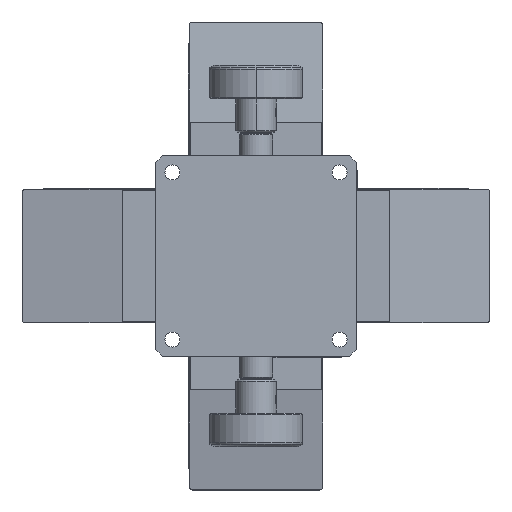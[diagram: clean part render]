
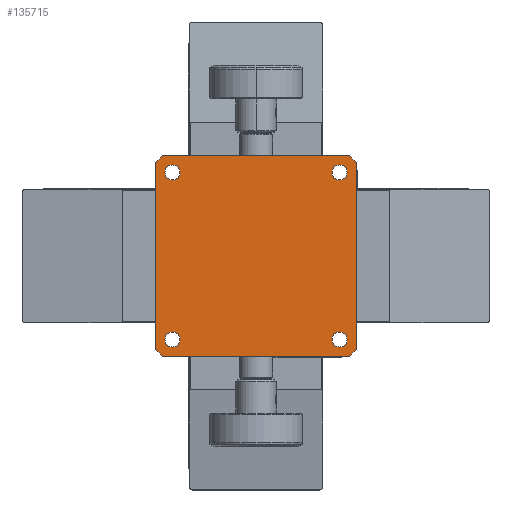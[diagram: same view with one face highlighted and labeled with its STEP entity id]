
A CAD part, front view. The second image highlights one B-rep face of the part: STEP entity #135715.
In plain terms, the highlighted planar face has unit normal (0, -1, 0).
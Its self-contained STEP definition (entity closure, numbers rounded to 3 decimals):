
#445 = ORIENTED_EDGE ( 'NONE', *, *, #141251, .F. ) ;
#706 = VECTOR ( 'NONE', #143927, 1000. ) ;
#797 = ORIENTED_EDGE ( 'NONE', *, *, #77149, .T. ) ;
#1164 = VERTEX_POINT ( 'NONE', #94167 ) ;
#1627 = DIRECTION ( 'NONE',  ( -0.707, 0., -0.707 ) ) ;
#3079 = EDGE_LOOP ( 'NONE', ( #77573, #151202 ) ) ;
#5270 = LINE ( 'NONE', #186721, #706 ) ;
#6106 = CARTESIAN_POINT ( 'NONE',  ( 28., 0., -30. ) ) ;
#7840 = VERTEX_POINT ( 'NONE', #92249 ) ;
#12298 = VERTEX_POINT ( 'NONE', #91786 ) ;
#13200 = CARTESIAN_POINT ( 'NONE',  ( -30., 0., -28. ) ) ;
#13535 = EDGE_CURVE ( 'NONE', #123453, #177479, #128598, .T. ) ;
#15899 = DIRECTION ( 'NONE',  ( 0., 1., 0. ) ) ;
#16109 = DIRECTION ( 'NONE',  ( 0., 1., 0. ) ) ;
#18883 = CARTESIAN_POINT ( 'NONE',  ( -30., 0., 30. ) ) ;
#19409 = DIRECTION ( 'NONE',  ( 0., 1., 0. ) ) ;
#21212 = DIRECTION ( 'NONE',  ( 1., 0., 0. ) ) ;
#21573 = CIRCLE ( 'NONE', #99109, 2.25 ) ;
#22071 = DIRECTION ( 'NONE',  ( 0., 1., 0. ) ) ;
#22887 = FACE_BOUND ( 'NONE', #179292, .T. ) ;
#23324 = DIRECTION ( 'NONE',  ( 0., 1., 0. ) ) ;
#23352 = CARTESIAN_POINT ( 'NONE',  ( -25., 0., -25. ) ) ;
#24170 = EDGE_CURVE ( 'NONE', #31021, #154450, #127732, .T. ) ;
#24943 = AXIS2_PLACEMENT_3D ( 'NONE', #80168, #180946, #94637 ) ;
#27414 = ORIENTED_EDGE ( 'NONE', *, *, #34184, .T. ) ;
#28366 = VECTOR ( 'NONE', #134514, 1000. ) ;
#29742 = CARTESIAN_POINT ( 'NONE',  ( 22.75, 0., 25. ) ) ;
#31021 = VERTEX_POINT ( 'NONE', #162185 ) ;
#33294 = ORIENTED_EDGE ( 'NONE', *, *, #166321, .T. ) ;
#33390 = DIRECTION ( 'NONE',  ( -1., 0., 0. ) ) ;
#34184 = EDGE_CURVE ( 'NONE', #53910, #117057, #178032, .T. ) ;
#39776 = CARTESIAN_POINT ( 'NONE',  ( 28., 0., 30. ) ) ;
#42071 = CARTESIAN_POINT ( 'NONE',  ( 25., 0., 25. ) ) ;
#43832 = LINE ( 'NONE', #180864, #154428 ) ;
#44205 = ORIENTED_EDGE ( 'NONE', *, *, #24170, .T. ) ;
#45711 = CIRCLE ( 'NONE', #72855, 2.25 ) ;
#47433 = CIRCLE ( 'NONE', #52788, 2.25 ) ;
#47983 = AXIS2_PLACEMENT_3D ( 'NONE', #42071, #143026, #56610 ) ;
#48119 = VECTOR ( 'NONE', #93617, 1000. ) ;
#49925 = DIRECTION ( 'NONE',  ( 0., 0., 1. ) ) ;
#51201 = ORIENTED_EDGE ( 'NONE', *, *, #13535, .T. ) ;
#51991 = LINE ( 'NONE', #165307, #124229 ) ;
#52788 = AXIS2_PLACEMENT_3D ( 'NONE', #55293, #156190, #69834 ) ;
#53910 = VERTEX_POINT ( 'NONE', #6106 ) ;
#55293 = CARTESIAN_POINT ( 'NONE',  ( -25., 0., -25. ) ) ;
#56140 = ORIENTED_EDGE ( 'NONE', *, *, #134080, .T. ) ;
#56610 = DIRECTION ( 'NONE',  ( 1., 0., 0. ) ) ;
#58493 = VECTOR ( 'NONE', #133809, 1000. ) ;
#62918 = AXIS2_PLACEMENT_3D ( 'NONE', #108553, #22071, #123055 ) ;
#64780 = CARTESIAN_POINT ( 'NONE',  ( 30., 0., -30. ) ) ;
#65315 = VERTEX_POINT ( 'NONE', #141575 ) ;
#66587 = CIRCLE ( 'NONE', #47983, 2.25 ) ;
#69156 = EDGE_CURVE ( 'NONE', #159352, #103575, #43832, .T. ) ;
#69834 = DIRECTION ( 'NONE',  ( 1., 0., 0. ) ) ;
#72628 = VECTOR ( 'NONE', #122176, 1000. ) ;
#72855 = AXIS2_PLACEMENT_3D ( 'NONE', #102343, #15899, #116884 ) ;
#76291 = EDGE_CURVE ( 'NONE', #161331, #7840, #21573, .T. ) ;
#76363 = PLANE ( 'NONE',  #169653 ) ;
#77149 = EDGE_CURVE ( 'NONE', #145559, #12298, #134199, .T. ) ;
#77573 = ORIENTED_EDGE ( 'NONE', *, *, #76291, .T. ) ;
#79163 = CARTESIAN_POINT ( 'NONE',  ( 30., 0., 30. ) ) ;
#80168 = CARTESIAN_POINT ( 'NONE',  ( -25., 0., 25. ) ) ;
#86638 = EDGE_LOOP ( 'NONE', ( #33294, #115497 ) ) ;
#89050 = CARTESIAN_POINT ( 'NONE',  ( 29., 0., -29. ) ) ;
#89374 = VECTOR ( 'NONE', #1627, 1000. ) ;
#91786 = CARTESIAN_POINT ( 'NONE',  ( 27.25, 0., 25. ) ) ;
#92249 = CARTESIAN_POINT ( 'NONE',  ( 22.75, 0., -25. ) ) ;
#92363 = CARTESIAN_POINT ( 'NONE',  ( -22.75, 0., -25. ) ) ;
#93617 = DIRECTION ( 'NONE',  ( 1., 0., 0. ) ) ;
#94167 = CARTESIAN_POINT ( 'NONE',  ( -22.75, 0., 25. ) ) ;
#94637 = DIRECTION ( 'NONE',  ( 1., 0., 0. ) ) ;
#97194 = ORIENTED_EDGE ( 'NONE', *, *, #125822, .T. ) ;
#99109 = AXIS2_PLACEMENT_3D ( 'NONE', #102547, #16109, #117097 ) ;
#99650 = FACE_BOUND ( 'NONE', #86638, .T. ) ;
#101133 = EDGE_CURVE ( 'NONE', #12298, #145559, #66587, .T. ) ;
#102343 = CARTESIAN_POINT ( 'NONE',  ( -25., 0., 25. ) ) ;
#102547 = CARTESIAN_POINT ( 'NONE',  ( 25., 0., -25. ) ) ;
#103575 = VERTEX_POINT ( 'NONE', #39776 ) ;
#105157 = LINE ( 'NONE', #120054, #28366 ) ;
#105851 = CARTESIAN_POINT ( 'NONE',  ( 25., 0., -25. ) ) ;
#108553 = CARTESIAN_POINT ( 'NONE',  ( 25., 0., 25. ) ) ;
#109062 = ORIENTED_EDGE ( 'NONE', *, *, #101133, .T. ) ;
#110655 = CARTESIAN_POINT ( 'NONE',  ( -27.25, 0., -25. ) ) ;
#111881 = ORIENTED_EDGE ( 'NONE', *, *, #69156, .T. ) ;
#113465 = EDGE_CURVE ( 'NONE', #127330, #154450, #51991, .T. ) ;
#115497 = ORIENTED_EDGE ( 'NONE', *, *, #159833, .T. ) ;
#116884 = DIRECTION ( 'NONE',  ( 1., 0., 0. ) ) ;
#117057 = VERTEX_POINT ( 'NONE', #183864 ) ;
#117097 = DIRECTION ( 'NONE',  ( 1., 0., 0. ) ) ;
#118581 = VERTEX_POINT ( 'NONE', #142326 ) ;
#119586 = CARTESIAN_POINT ( 'NONE',  ( -30., 0., 28. ) ) ;
#119868 = DIRECTION ( 'NONE',  ( 0., -1., 0. ) ) ;
#120023 = ORIENTED_EDGE ( 'NONE', *, *, #113465, .F. ) ;
#120054 = CARTESIAN_POINT ( 'NONE',  ( 30., 0., 30. ) ) ;
#120377 = DIRECTION ( 'NONE',  ( 1., 0., 0. ) ) ;
#120664 = EDGE_LOOP ( 'NONE', ( #181393, #44205, #120023, #56140, #182141, #27414, #445, #111881 ) ) ;
#122176 = DIRECTION ( 'NONE',  ( -1., 0., 0. ) ) ;
#123055 = DIRECTION ( 'NONE',  ( 1., 0., 0. ) ) ;
#123453 = VERTEX_POINT ( 'NONE', #92363 ) ;
#124229 = VECTOR ( 'NONE', #49925, 1000. ) ;
#124973 = CARTESIAN_POINT ( 'NONE',  ( 27.25, 0., -25. ) ) ;
#125822 = EDGE_CURVE ( 'NONE', #177479, #123453, #47433, .T. ) ;
#126908 = AXIS2_PLACEMENT_3D ( 'NONE', #105851, #19409, #120377 ) ;
#127330 = VERTEX_POINT ( 'NONE', #13200 ) ;
#127732 = LINE ( 'NONE', #174491, #89374 ) ;
#128598 = CIRCLE ( 'NONE', #135102, 2.25 ) ;
#132592 = EDGE_LOOP ( 'NONE', ( #109062, #797 ) ) ;
#133509 = FACE_OUTER_BOUND ( 'NONE', #120664, .T. ) ;
#133809 = DIRECTION ( 'NONE',  ( 0.707, 0., 0.707 ) ) ;
#134080 = EDGE_CURVE ( 'NONE', #127330, #65315, #5270, .T. ) ;
#134199 = CIRCLE ( 'NONE', #62918, 2.25 ) ;
#134514 = DIRECTION ( 'NONE',  ( 0., 0., -1. ) ) ;
#135102 = AXIS2_PLACEMENT_3D ( 'NONE', #23352, #23324, #21212 ) ;
#135715 = ADVANCED_FACE ( 'NONE', ( #180806, #99650, #22887, #171815, #133509 ), #76363, .T. ) ;
#141251 = EDGE_CURVE ( 'NONE', #159352, #117057, #105157, .T. ) ;
#141347 = CIRCLE ( 'NONE', #24943, 2.25 ) ;
#141575 = CARTESIAN_POINT ( 'NONE',  ( -28., 0., -30. ) ) ;
#142326 = CARTESIAN_POINT ( 'NONE',  ( -27.25, 0., 25. ) ) ;
#143026 = DIRECTION ( 'NONE',  ( 0., 1., 0. ) ) ;
#143927 = DIRECTION ( 'NONE',  ( 0.707, 0., -0.707 ) ) ;
#145559 = VERTEX_POINT ( 'NONE', #29742 ) ;
#149316 = LINE ( 'NONE', #64780, #72628 ) ;
#151202 = ORIENTED_EDGE ( 'NONE', *, *, #171340, .T. ) ;
#152891 = CIRCLE ( 'NONE', #126908, 2.25 ) ;
#154428 = VECTOR ( 'NONE', #166400, 1000. ) ;
#154450 = VERTEX_POINT ( 'NONE', #119586 ) ;
#156190 = DIRECTION ( 'NONE',  ( 0., 1., 0. ) ) ;
#158700 = LINE ( 'NONE', #79163, #48119 ) ;
#159352 = VERTEX_POINT ( 'NONE', #183181 ) ;
#159833 = EDGE_CURVE ( 'NONE', #118581, #1164, #45711, .T. ) ;
#160785 = EDGE_CURVE ( 'NONE', #31021, #103575, #158700, .T. ) ;
#161331 = VERTEX_POINT ( 'NONE', #124973 ) ;
#162145 = EDGE_CURVE ( 'NONE', #53910, #65315, #149316, .T. ) ;
#162185 = CARTESIAN_POINT ( 'NONE',  ( -28., 0., 30. ) ) ;
#165307 = CARTESIAN_POINT ( 'NONE',  ( -30., 0., 30. ) ) ;
#166321 = EDGE_CURVE ( 'NONE', #1164, #118581, #141347, .T. ) ;
#166400 = DIRECTION ( 'NONE',  ( -0.707, 0., 0.707 ) ) ;
#169653 = AXIS2_PLACEMENT_3D ( 'NONE', #18883, #119868, #33390 ) ;
#171340 = EDGE_CURVE ( 'NONE', #7840, #161331, #152891, .T. ) ;
#171815 = FACE_BOUND ( 'NONE', #3079, .T. ) ;
#174491 = CARTESIAN_POINT ( 'NONE',  ( -29., 0., 29. ) ) ;
#177479 = VERTEX_POINT ( 'NONE', #110655 ) ;
#178032 = LINE ( 'NONE', #89050, #58493 ) ;
#179292 = EDGE_LOOP ( 'NONE', ( #51201, #97194 ) ) ;
#180806 = FACE_BOUND ( 'NONE', #132592, .T. ) ;
#180864 = CARTESIAN_POINT ( 'NONE',  ( -1., 0., 59. ) ) ;
#180946 = DIRECTION ( 'NONE',  ( 0., 1., 0. ) ) ;
#181393 = ORIENTED_EDGE ( 'NONE', *, *, #160785, .F. ) ;
#182141 = ORIENTED_EDGE ( 'NONE', *, *, #162145, .F. ) ;
#183181 = CARTESIAN_POINT ( 'NONE',  ( 30., 0., 28. ) ) ;
#183864 = CARTESIAN_POINT ( 'NONE',  ( 30., 0., -28. ) ) ;
#186721 = CARTESIAN_POINT ( 'NONE',  ( -59., 0., 1. ) ) ;
